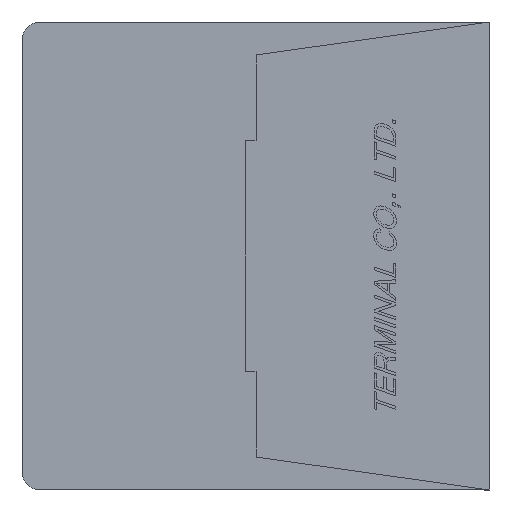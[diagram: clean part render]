
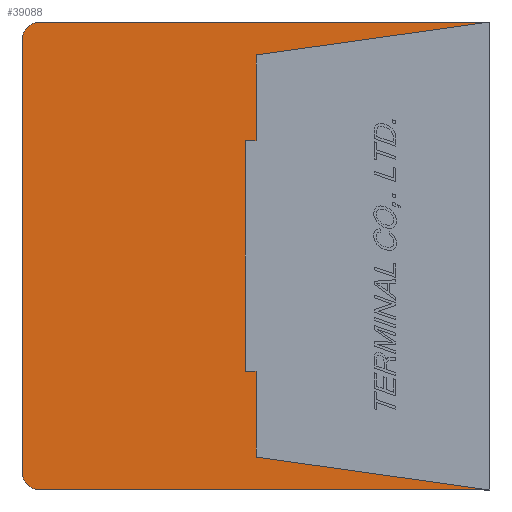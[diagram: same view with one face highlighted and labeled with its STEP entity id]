
A CAD part, left-side view. The second image highlights one B-rep face of the part: STEP entity #39088.
In plain terms, the highlighted planar face has unit normal (-1, 0, 0).
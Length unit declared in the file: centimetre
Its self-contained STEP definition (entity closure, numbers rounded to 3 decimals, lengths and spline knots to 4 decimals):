
#2011=CIRCLE('',#67035,0.05);
#2012=CIRCLE('',#67038,0.05);
#3404=VERTEX_POINT('',#54175);
#3405=VERTEX_POINT('',#54177);
#3406=VERTEX_POINT('',#54181);
#3407=VERTEX_POINT('',#54185);
#3408=VERTEX_POINT('',#54189);
#3409=VERTEX_POINT('',#54193);
#3410=VERTEX_POINT('',#54197);
#3411=VERTEX_POINT('',#54199);
#3412=VERTEX_POINT('',#54201);
#3413=VERTEX_POINT('',#54203);
#3414=VERTEX_POINT('',#54205);
#3415=VERTEX_POINT('',#54207);
#7543=VECTOR('',#45268,1.);
#7547=VECTOR('',#45277,1.);
#7550=VECTOR('',#45285,1.);
#7551=VECTOR('',#45287,1.);
#7552=VECTOR('',#45288,1.);
#7553=VECTOR('',#45289,1.);
#7554=VECTOR('',#45290,1.);
#7555=VECTOR('',#45291,1.);
#7556=VECTOR('',#45292,1.);
#7557=VECTOR('',#45293,1.);
#12148=LINE('',#54176,#7543);
#12152=LINE('',#54186,#7547);
#12155=LINE('',#54194,#7550);
#12156=LINE('',#54196,#7551);
#12157=LINE('',#54198,#7552);
#12158=LINE('',#54200,#7553);
#12159=LINE('',#54202,#7554);
#12160=LINE('',#54204,#7555);
#12161=LINE('',#54206,#7556);
#12162=LINE('',#54208,#7557);
#17243=EDGE_CURVE('',#3405,#3404,#12148,.T.);
#17246=EDGE_CURVE('',#3406,#3404,#2011,.T.);
#17248=EDGE_CURVE('',#3406,#3407,#12152,.T.);
#17250=EDGE_CURVE('',#3408,#3407,#2012,.T.);
#17252=EDGE_CURVE('',#3408,#3409,#12155,.T.);
#17253=EDGE_CURVE('',#3410,#3405,#12156,.T.);
#17254=EDGE_CURVE('',#3409,#3411,#12157,.T.);
#17255=EDGE_CURVE('',#3411,#3412,#12158,.T.);
#17256=EDGE_CURVE('',#3412,#3413,#12159,.T.);
#17257=EDGE_CURVE('',#3413,#3414,#12160,.T.);
#17258=EDGE_CURVE('',#3414,#3415,#12161,.T.);
#17259=EDGE_CURVE('',#3415,#3410,#12162,.T.);
#25067=ORIENTED_EDGE('',*,*,#17253,.T.);
#25068=ORIENTED_EDGE('',*,*,#17243,.T.);
#25069=ORIENTED_EDGE('',*,*,#17246,.F.);
#25070=ORIENTED_EDGE('',*,*,#17248,.T.);
#25071=ORIENTED_EDGE('',*,*,#17250,.F.);
#25072=ORIENTED_EDGE('',*,*,#17252,.T.);
#25073=ORIENTED_EDGE('',*,*,#17254,.T.);
#25074=ORIENTED_EDGE('',*,*,#17255,.T.);
#25075=ORIENTED_EDGE('',*,*,#17256,.T.);
#25076=ORIENTED_EDGE('',*,*,#17257,.T.);
#25077=ORIENTED_EDGE('',*,*,#17258,.T.);
#25078=ORIENTED_EDGE('',*,*,#17259,.T.);
#34016=EDGE_LOOP('',(#25067,#25068,#25069,#25070,#25071,#25072,#25073,#25074,
#25075,#25076,#25077,#25078));
#36607=FACE_BOUND('',#34016,.T.);
#39088=ADVANCED_FACE('',(#36607),#41253,.F.);
#41253=PLANE('',#67040);
#45268=DIRECTION('',(0.,1.,0.));
#45273=DIRECTION('',(1.,0.,0.));
#45274=DIRECTION('',(0.,0.,-0.05));
#45277=DIRECTION('',(0.,0.,-1.));
#45281=DIRECTION('',(1.,0.,0.));
#45282=DIRECTION('',(0.,0.,-0.05));
#45285=DIRECTION('',(0.,-1.,0.));
#45286=DIRECTION('',(1.,0.,0.));
#45287=DIRECTION('',(0.,-0.99,0.139));
#45288=DIRECTION('',(0.,0.99,0.139));
#45289=DIRECTION('',(0.,0.,1.));
#45290=DIRECTION('',(0.,1.,0.));
#45291=DIRECTION('',(0.,0.,1.));
#45292=DIRECTION('',(0.,-1.,0.));
#45293=DIRECTION('',(0.,0.,1.));
#54175=CARTESIAN_POINT('',(-0.889,1.23,0.64));
#54176=CARTESIAN_POINT('',(-0.889,0.,0.64));
#54177=CARTESIAN_POINT('',(-0.889,0.,0.64));
#54181=CARTESIAN_POINT('',(-0.889,1.28,0.59));
#54182=CARTESIAN_POINT('',(-0.889,1.23,0.59));
#54185=CARTESIAN_POINT('',(-0.889,1.28,-0.59));
#54186=CARTESIAN_POINT('',(-0.889,1.28,0.59));
#54189=CARTESIAN_POINT('',(-0.889,1.23,-0.64));
#54190=CARTESIAN_POINT('',(-0.889,1.23,-0.59));
#54193=CARTESIAN_POINT('',(-0.889,0.,-0.64));
#54194=CARTESIAN_POINT('',(-0.889,1.23,-0.64));
#54195=CARTESIAN_POINT('',(-0.889,0.6345,0.));
#54196=CARTESIAN_POINT('',(-0.889,0.64,0.55));
#54197=CARTESIAN_POINT('',(-0.889,0.64,0.55));
#54198=CARTESIAN_POINT('',(-0.889,0.,-0.64));
#54199=CARTESIAN_POINT('',(-0.889,0.64,-0.55));
#54200=CARTESIAN_POINT('',(-0.889,0.64,-0.55));
#54201=CARTESIAN_POINT('',(-0.889,0.64,-0.315));
#54202=CARTESIAN_POINT('',(-0.889,0.64,-0.315));
#54203=CARTESIAN_POINT('',(-0.889,0.67,-0.315));
#54204=CARTESIAN_POINT('',(-0.889,0.67,-0.315));
#54205=CARTESIAN_POINT('',(-0.889,0.67,0.315));
#54206=CARTESIAN_POINT('',(-0.889,0.67,0.315));
#54207=CARTESIAN_POINT('',(-0.889,0.64,0.315));
#54208=CARTESIAN_POINT('',(-0.889,0.64,0.315));
#67035=AXIS2_PLACEMENT_3D('',#54182,#45273,#45274);
#67038=AXIS2_PLACEMENT_3D('',#54190,#45281,#45282);
#67040=AXIS2_PLACEMENT_3D('',#54195,#45286,$);
